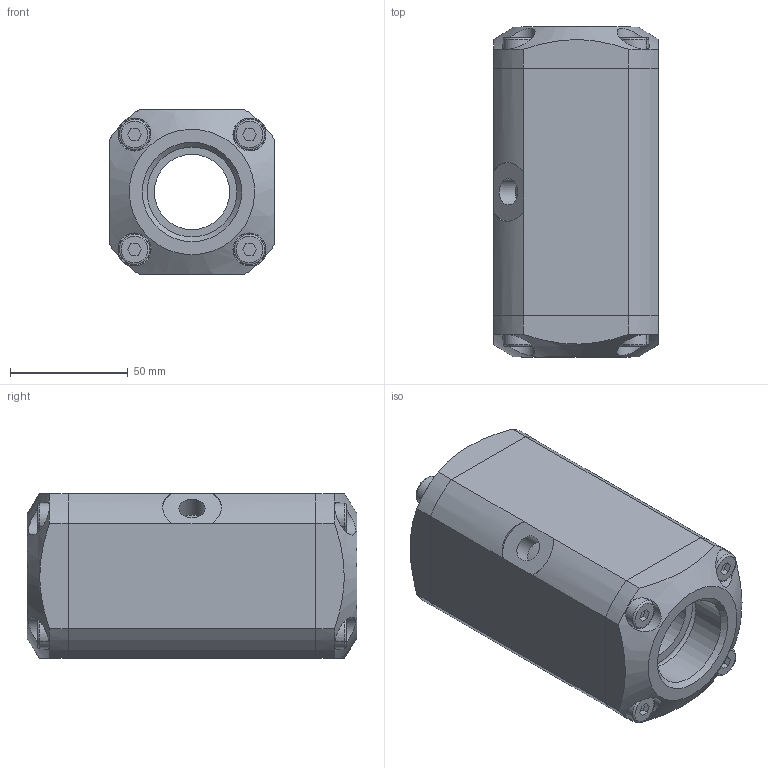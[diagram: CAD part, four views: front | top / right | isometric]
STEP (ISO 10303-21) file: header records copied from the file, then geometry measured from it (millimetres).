
FILE_DESCRIPTION(/* description */ (''),/* implementation_level */ '2;1');
FILE_NAME(/* name */ 'Serie20_QV32_assembly_VEREINFACHT.stp',/* time_stamp */ '2013-10-28T20:00:46+01:00',/* author */ (''),/* organization */ (''),/* preprocessor_version */ 'ST-DEVELOPER v11',/* originating_system */ 'SIEMENS PLM Software NX 7.5',/* authorisation */ '');
FILE_SCHEMA (('AUTOMOTIVE_DESIGN { 1 0 10303 214 1 1 1 1 }'));
Length unit declared in the file: millimetre
Products named in the file (1): memdC9A8e43r
Bounding box: 70 x 140 x 70 mm (x, y, z)
Volume: 495874.4 mm3; surface area: 91412.1 mm2
Topology: 11 solids, 11 shells, 251 faces, 567 edges, 361 vertices
Faces by surface type: plane 113, cylinder 78, cone 32, torus 28
Full cylindrical faces by diameter (mm): 6.8 x8, 8 x8, 11.113 x1, 14 x8, 32 x3, 38.1 x2
Entity records: 6812 total; most frequent: CARTESIAN_POINT 1295, DIRECTION 1198, ORIENTED_EDGE 960, AXIS2_PLACEMENT_3D 481, EDGE_CURVE 480, EDGE_LOOP 346, VERTEX_POINT 332, ADVANCED_FACE 251
